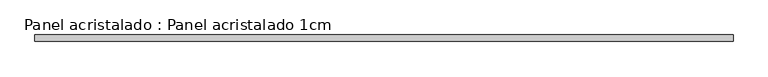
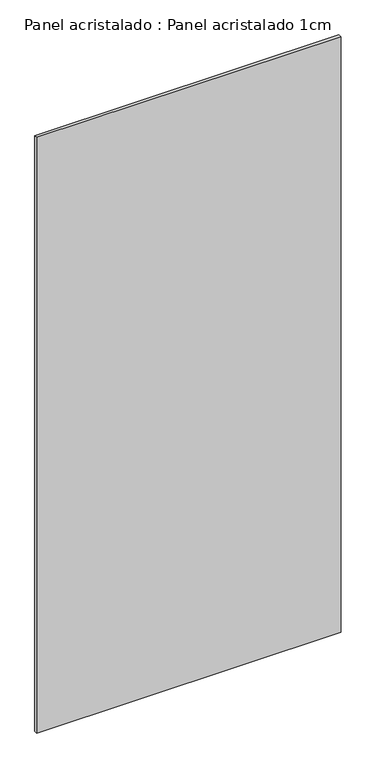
"""IFC4 building model written with IfcOpenShell, lengths in millimetres: plate geometry, Panel acristalado : Panel acristalado 1cm."""

from ifc_helpers import new_model, si_unit, origin, origin_with_axes, place, context, project, spatial, polyline, outline, extrude, source, transform, mapped, element, save


def panel_acristalado_panel_acristalado_1cm_07efc20a(model_context):
    return source(origin(), model_context, "Body", "SweptSolid", [
        extrude(outline(polyline([(532.0000006, 20.0), (-532.0000006, 20.0), (-532.0000006, 30.0), (532.0000006, 30.0), (532.0000006, 20.0)])), origin_with_axes(), (0.0, 0.0, 1.0), 2200.0),
    ])


if __name__ == "__main__":
    model = new_model("IFC4")
    model_context = context("Model", 3, world=origin())
    ifc_project = project(units=[si_unit("LENGTHUNIT", "METRE", prefix="MILLI")], contexts=[model_context])
    site = spatial("IfcSite", under=ifc_project)
    building = spatial("IfcBuilding", under=site)
    placement = place(None, origin())
    panel_acristalado_panel_acristalado_1cm_shape = panel_acristalado_panel_acristalado_1cm_07efc20a(model_context)
    element("IfcPlate", 1, ObjectType="Panel acristalado : Panel acristalado 1cm", at=placement, inside=building, context=model_context, shape_type="MappedRepresentation", body=[
        mapped(panel_acristalado_panel_acristalado_1cm_shape, transform((0.0, 0.0, 0.0), x_axis=(1.0, 0.0, 0.0), y_axis=(0.0, 1.0, 0.0), z_axis=(0.0, 0.0, 1.0))),
    ])
    save(model, "model.ifc")
